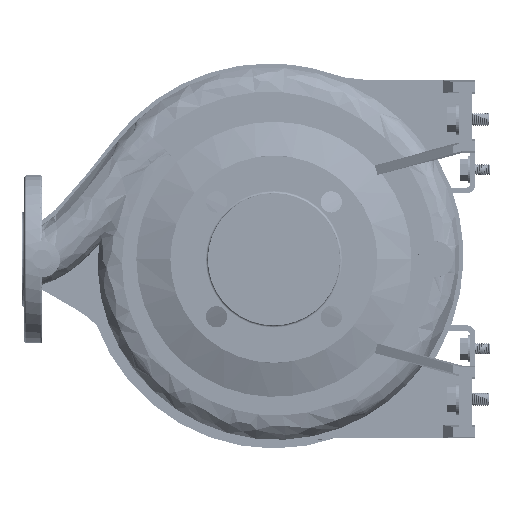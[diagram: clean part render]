
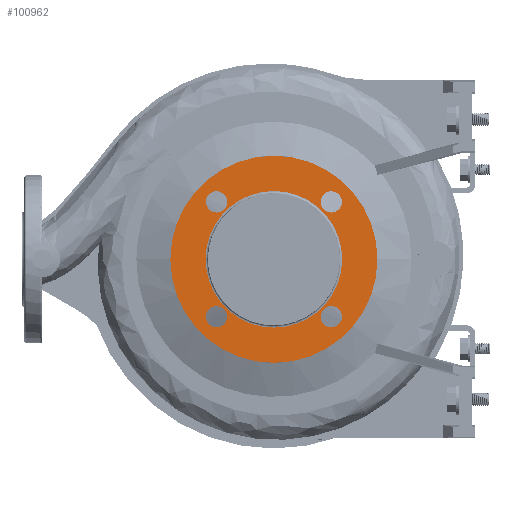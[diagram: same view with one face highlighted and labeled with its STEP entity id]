
A CAD part, left-side view. The second image highlights one B-rep face of the part: STEP entity #100962.
In plain terms, the highlighted planar face has unit normal (-1, 0, 0).
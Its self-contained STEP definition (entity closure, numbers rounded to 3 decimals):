
#1176 = AXIS2_PLACEMENT_3D ( 'NONE', #114578, #27772, #143811 ) ;
#1640 = DIRECTION ( 'NONE',  ( 0., 1., 0. ) ) ;
#1729 = VERTEX_POINT ( 'NONE', #43390 ) ;
#1856 = CARTESIAN_POINT ( 'NONE',  ( -98., -61., 0. ) ) ;
#2160 = EDGE_CURVE ( 'NONE', #61619, #16154, #60399, .T. ) ;
#3852 = DIRECTION ( 'NONE',  ( -1., 0., 0. ) ) ;
#3874 = EDGE_CURVE ( 'NONE', #5047, #126091, #172046, .T. ) ;
#4174 = CIRCLE ( 'NONE', #1176, 61. ) ;
#4544 = FACE_BOUND ( 'NONE', #17601, .T. ) ;
#5047 = VERTEX_POINT ( 'NONE', #88788 ) ;
#12112 = EDGE_CURVE ( 'NONE', #16154, #61619, #135722, .T. ) ;
#13620 = CARTESIAN_POINT ( 'NONE',  ( -98., 92.5, 0. ) ) ;
#16154 = VERTEX_POINT ( 'NONE', #108833 ) ;
#17601 = EDGE_LOOP ( 'NONE', ( #132337, #32900 ) ) ;
#21079 = CARTESIAN_POINT ( 'NONE',  ( -98., 0., 0. ) ) ;
#24814 = DIRECTION ( 'NONE',  ( 0., 1., 0. ) ) ;
#26973 = DIRECTION ( 'NONE',  ( -1., 0., 0. ) ) ;
#27504 = DIRECTION ( 'NONE',  ( -1., 0., 0. ) ) ;
#27772 = DIRECTION ( 'NONE',  ( 1., 0., 0. ) ) ;
#31939 = CARTESIAN_POINT ( 'NONE',  ( -98., -92.5, 0. ) ) ;
#32178 = ORIENTED_EDGE ( 'NONE', *, *, #2160, .F. ) ;
#32754 = DIRECTION ( 'NONE',  ( 0., -1., 0. ) ) ;
#32900 = ORIENTED_EDGE ( 'NONE', *, *, #116328, .F. ) ;
#33692 = DIRECTION ( 'NONE',  ( -1., 0., 0. ) ) ;
#33810 = PLANE ( 'NONE',  #152463 ) ;
#33894 = DIRECTION ( 'NONE',  ( -1., 0., 0. ) ) ;
#34529 = AXIS2_PLACEMENT_3D ( 'NONE', #73406, #146970, #1640 ) ;
#36034 = CIRCLE ( 'NONE', #186610, 9.5 ) ;
#36494 = DIRECTION ( 'NONE',  ( -1., 0., 0. ) ) ;
#37513 = CIRCLE ( 'NONE', #34529, 61. ) ;
#37545 = EDGE_LOOP ( 'NONE', ( #87084, #93143 ) ) ;
#43390 = CARTESIAN_POINT ( 'NONE',  ( -98., 61., 0. ) ) ;
#45454 = EDGE_CURVE ( 'NONE', #58192, #106010, #119483, .T. ) ;
#47127 = DIRECTION ( 'NONE',  ( 0., 0., 1. ) ) ;
#47985 = CARTESIAN_POINT ( 'NONE',  ( -98., 0., 0. ) ) ;
#50341 = AXIS2_PLACEMENT_3D ( 'NONE', #47985, #105547, #163078 ) ;
#51349 = CIRCLE ( 'NONE', #117648, 9.5 ) ;
#56038 = ORIENTED_EDGE ( 'NONE', *, *, #102751, .F. ) ;
#56558 = AXIS2_PLACEMENT_3D ( 'NONE', #123927, #179580, #64481 ) ;
#58192 = VERTEX_POINT ( 'NONE', #170615 ) ;
#60399 = CIRCLE ( 'NONE', #156701, 9.5 ) ;
#61279 = CARTESIAN_POINT ( 'NONE',  ( -98., 51.265, -51.265 ) ) ;
#61619 = VERTEX_POINT ( 'NONE', #148192 ) ;
#62123 = FACE_BOUND ( 'NONE', #108685, .T. ) ;
#62927 = CARTESIAN_POINT ( 'NONE',  ( -98., 51.265, 51.265 ) ) ;
#63004 = VERTEX_POINT ( 'NONE', #75927 ) ;
#63247 = ORIENTED_EDGE ( 'NONE', *, *, #3874, .F. ) ;
#64481 = DIRECTION ( 'NONE',  ( 0., 1., 0. ) ) ;
#65177 = CIRCLE ( 'NONE', #74221, 9.5 ) ;
#69055 = CARTESIAN_POINT ( 'NONE',  ( -98., -51.265, 51.265 ) ) ;
#69696 = VERTEX_POINT ( 'NONE', #186695 ) ;
#69882 = EDGE_LOOP ( 'NONE', ( #56038, #83405 ) ) ;
#72170 = CIRCLE ( 'NONE', #150401, 92.5 ) ;
#73406 = CARTESIAN_POINT ( 'NONE',  ( -98., 0., 0. ) ) ;
#74221 = AXIS2_PLACEMENT_3D ( 'NONE', #69055, #27504, #186028 ) ;
#75776 = AXIS2_PLACEMENT_3D ( 'NONE', #91321, #105461, #148876 ) ;
#75927 = CARTESIAN_POINT ( 'NONE',  ( -98., -41.765, -51.265 ) ) ;
#83405 = ORIENTED_EDGE ( 'NONE', *, *, #176345, .F. ) ;
#87084 = ORIENTED_EDGE ( 'NONE', *, *, #105494, .F. ) ;
#88788 = CARTESIAN_POINT ( 'NONE',  ( -98., -60.765, 51.265 ) ) ;
#90247 = VERTEX_POINT ( 'NONE', #1856 ) ;
#91321 = CARTESIAN_POINT ( 'NONE',  ( -98., -51.265, 51.265 ) ) ;
#91368 = CARTESIAN_POINT ( 'NONE',  ( -98., 61., 0. ) ) ;
#92625 = CIRCLE ( 'NONE', #50341, 92.5 ) ;
#93143 = ORIENTED_EDGE ( 'NONE', *, *, #170358, .F. ) ;
#94040 = CARTESIAN_POINT ( 'NONE',  ( -98., 51.265, 51.265 ) ) ;
#94161 = VERTEX_POINT ( 'NONE', #31939 ) ;
#94962 = EDGE_CURVE ( 'NONE', #1729, #90247, #4174, .T. ) ;
#100842 = EDGE_CURVE ( 'NONE', #126091, #5047, #65177, .T. ) ;
#100962 = ADVANCED_FACE ( 'NONE', ( #4544, #160274, #62123, #119690, #115958, #175350 ), #33810, .T. ) ;
#102751 = EDGE_CURVE ( 'NONE', #69696, #63004, #152852, .T. ) ;
#105461 = DIRECTION ( 'NONE',  ( -1., 0., 0. ) ) ;
#105494 = EDGE_CURVE ( 'NONE', #164517, #94161, #72170, .T. ) ;
#105547 = DIRECTION ( 'NONE',  ( 1., 0., 0. ) ) ;
#106010 = VERTEX_POINT ( 'NONE', #106733 ) ;
#106733 = CARTESIAN_POINT ( 'NONE',  ( -98., 60.765, -51.265 ) ) ;
#108685 = EDGE_LOOP ( 'NONE', ( #63247, #150956 ) ) ;
#108833 = CARTESIAN_POINT ( 'NONE',  ( -98., 41.765, 51.265 ) ) ;
#114578 = CARTESIAN_POINT ( 'NONE',  ( -98., 0., 0. ) ) ;
#115270 = DIRECTION ( 'NONE',  ( 0., 1., 0. ) ) ;
#115958 = FACE_BOUND ( 'NONE', #122126, .T. ) ;
#116328 = EDGE_CURVE ( 'NONE', #106010, #58192, #51349, .T. ) ;
#117511 = CARTESIAN_POINT ( 'NONE',  ( -98., -41.765, 51.265 ) ) ;
#117648 = AXIS2_PLACEMENT_3D ( 'NONE', #183628, #26973, #170381 ) ;
#119483 = CIRCLE ( 'NONE', #179796, 9.5 ) ;
#119690 = FACE_BOUND ( 'NONE', #156123, .T. ) ;
#122126 = EDGE_LOOP ( 'NONE', ( #181694, #133832 ) ) ;
#123927 = CARTESIAN_POINT ( 'NONE',  ( -98., -51.265, -51.265 ) ) ;
#126091 = VERTEX_POINT ( 'NONE', #117511 ) ;
#132337 = ORIENTED_EDGE ( 'NONE', *, *, #45454, .F. ) ;
#133832 = ORIENTED_EDGE ( 'NONE', *, *, #143256, .T. ) ;
#135722 = CIRCLE ( 'NONE', #156697, 9.5 ) ;
#143256 = EDGE_CURVE ( 'NONE', #90247, #1729, #37513, .T. ) ;
#143811 = DIRECTION ( 'NONE',  ( 0., 1., 0. ) ) ;
#146123 = DIRECTION ( 'NONE',  ( 0., -1., 0. ) ) ;
#146970 = DIRECTION ( 'NONE',  ( 1., 0., 0. ) ) ;
#148192 = CARTESIAN_POINT ( 'NONE',  ( -98., 60.765, 51.265 ) ) ;
#148876 = DIRECTION ( 'NONE',  ( 0., 0., -1. ) ) ;
#149197 = ORIENTED_EDGE ( 'NONE', *, *, #12112, .F. ) ;
#150401 = AXIS2_PLACEMENT_3D ( 'NONE', #21079, #154048, #24814 ) ;
#150651 = DIRECTION ( 'NONE',  ( 0., -1., 0. ) ) ;
#150956 = ORIENTED_EDGE ( 'NONE', *, *, #100842, .F. ) ;
#152463 = AXIS2_PLACEMENT_3D ( 'NONE', #91368, #177208, #146123 ) ;
#152852 = CIRCLE ( 'NONE', #56558, 9.5 ) ;
#154048 = DIRECTION ( 'NONE',  ( 1., 0., 0. ) ) ;
#156123 = EDGE_LOOP ( 'NONE', ( #149197, #32178 ) ) ;
#156697 = AXIS2_PLACEMENT_3D ( 'NONE', #94040, #36494, #150651 ) ;
#156701 = AXIS2_PLACEMENT_3D ( 'NONE', #62927, #33692, #32754 ) ;
#160274 = FACE_BOUND ( 'NONE', #69882, .T. ) ;
#163078 = DIRECTION ( 'NONE',  ( 0., 1., 0. ) ) ;
#164517 = VERTEX_POINT ( 'NONE', #13620 ) ;
#170358 = EDGE_CURVE ( 'NONE', #94161, #164517, #92625, .T. ) ;
#170381 = DIRECTION ( 'NONE',  ( 0., 0., 1. ) ) ;
#170615 = CARTESIAN_POINT ( 'NONE',  ( -98., 41.765, -51.265 ) ) ;
#172046 = CIRCLE ( 'NONE', #75776, 9.5 ) ;
#172803 = CARTESIAN_POINT ( 'NONE',  ( -98., -51.265, -51.265 ) ) ;
#175350 = FACE_OUTER_BOUND ( 'NONE', #37545, .T. ) ;
#176345 = EDGE_CURVE ( 'NONE', #63004, #69696, #36034, .T. ) ;
#177208 = DIRECTION ( 'NONE',  ( -1., 0., 0. ) ) ;
#179580 = DIRECTION ( 'NONE',  ( -1., 0., 0. ) ) ;
#179796 = AXIS2_PLACEMENT_3D ( 'NONE', #61279, #33894, #47127 ) ;
#181694 = ORIENTED_EDGE ( 'NONE', *, *, #94962, .T. ) ;
#183628 = CARTESIAN_POINT ( 'NONE',  ( -98., 51.265, -51.265 ) ) ;
#186028 = DIRECTION ( 'NONE',  ( 0., 0., -1. ) ) ;
#186610 = AXIS2_PLACEMENT_3D ( 'NONE', #172803, #3852, #115270 ) ;
#186695 = CARTESIAN_POINT ( 'NONE',  ( -98., -60.765, -51.265 ) ) ;
